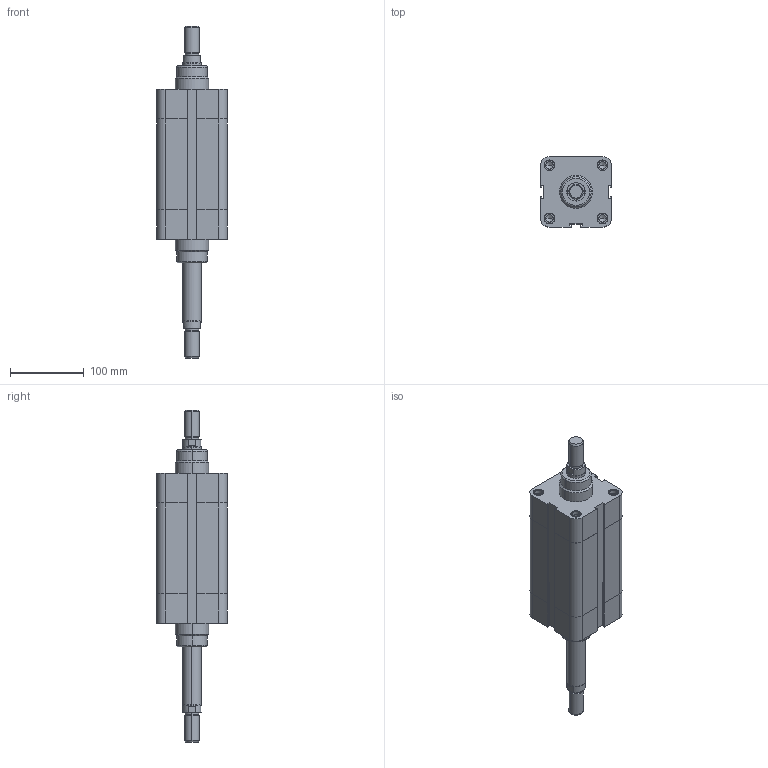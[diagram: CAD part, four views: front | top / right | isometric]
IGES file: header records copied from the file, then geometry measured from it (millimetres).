
Global section: file name: No Iges File Name specified; native system: AutoDesk Inventor R6.1; preprocessor: AutoDesk Inventor Iges Exporter R6.1; author: No Author specified; organization: No Organization specified; date: 20040107.171126; units: millimetre
Bounding box: 95.5 x 95.5 x 450 mm (x, y, z)
Volume: 1926495.6 mm3; surface area: 175474 mm2
Topology: 2 solids, 2 shells, 236 faces, 564 edges, 356 vertices
Faces by surface type: plane 80, bspline 62, cylinder 42, revolution 32, cone 16, torus 4
